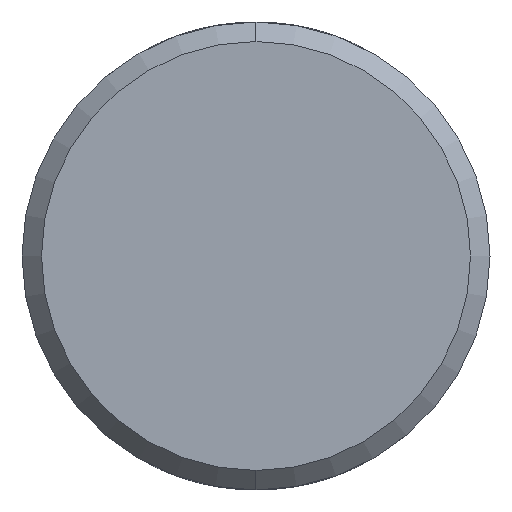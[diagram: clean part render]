
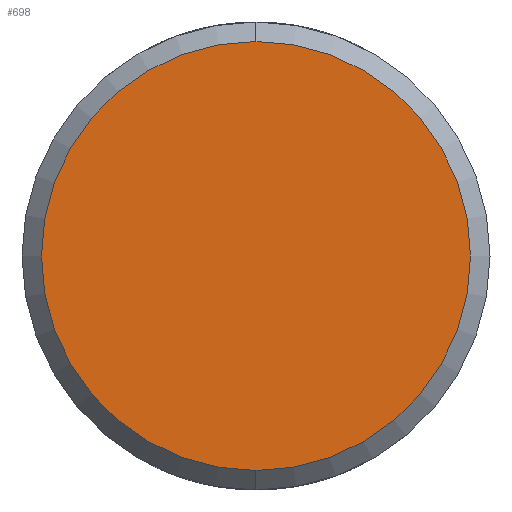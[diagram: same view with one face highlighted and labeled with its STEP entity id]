
A CAD part, left-side view. The second image highlights one B-rep face of the part: STEP entity #698.
In plain terms, the highlighted planar face has unit normal (-1, 0, 0).
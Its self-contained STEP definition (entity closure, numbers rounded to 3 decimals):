
#12 = CARTESIAN_POINT ( 'NONE',  ( -87., 0., 5.5 ) ) ;
#67 = DIRECTION ( 'NONE',  ( -1., 0., 0. ) ) ;
#136 = CARTESIAN_POINT ( 'NONE',  ( -87., 0., 0. ) ) ;
#199 = EDGE_CURVE ( 'NONE', #372, #905, #760, .T. ) ;
#201 = ORIENTED_EDGE ( 'NONE', *, *, #815, .T. ) ;
#312 = CARTESIAN_POINT ( 'NONE',  ( -87., 0., 0. ) ) ;
#317 = CARTESIAN_POINT ( 'NONE',  ( -87., 0., -5.5 ) ) ;
#372 = VERTEX_POINT ( 'NONE', #12 ) ;
#385 = DIRECTION ( 'NONE',  ( 0., 0., -1. ) ) ;
#420 = AXIS2_PLACEMENT_3D ( 'NONE', #312, #551, #385 ) ;
#443 = DIRECTION ( 'NONE',  ( 0., 0., -1. ) ) ;
#470 = FACE_OUTER_BOUND ( 'NONE', #982, .T. ) ;
#543 = ORIENTED_EDGE ( 'NONE', *, *, #199, .T. ) ;
#551 = DIRECTION ( 'NONE',  ( -1., 0., 0. ) ) ;
#578 = CIRCLE ( 'NONE', #420, 5.5 ) ;
#608 = DIRECTION ( 'NONE',  ( 1., 0., 0. ) ) ;
#698 = ADVANCED_FACE ( 'NONE', ( #470 ), #755, .F. ) ;
#706 = AXIS2_PLACEMENT_3D ( 'NONE', #824, #67, #744 ) ;
#744 = DIRECTION ( 'NONE',  ( 0., 0., -1. ) ) ;
#755 = PLANE ( 'NONE',  #883 ) ;
#760 = CIRCLE ( 'NONE', #706, 5.5 ) ;
#815 = EDGE_CURVE ( 'NONE', #905, #372, #578, .T. ) ;
#824 = CARTESIAN_POINT ( 'NONE',  ( -87., 0., 0. ) ) ;
#883 = AXIS2_PLACEMENT_3D ( 'NONE', #136, #608, #443 ) ;
#905 = VERTEX_POINT ( 'NONE', #317 ) ;
#982 = EDGE_LOOP ( 'NONE', ( #201, #543 ) ) ;
